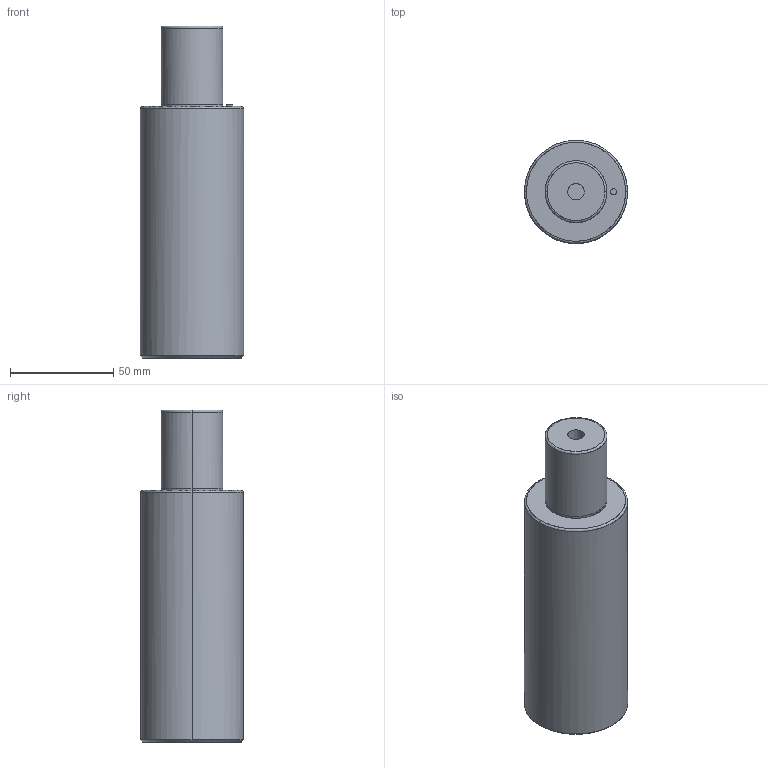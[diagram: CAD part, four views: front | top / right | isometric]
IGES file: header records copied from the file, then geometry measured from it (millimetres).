
Global section: file name: E:\UnigraphicsGraphicData\MISUMI_PRESS-PARTS\IGES\3d_gssr50-38_03955_r00.igs; native system: NX V5.0; preprocessor: UGS NX IGES V5.0; author: MISUMI; date: 20110105.160820; units: millimetre
Bounding box: 50 x 49.89 x 161 mm (x, y, z)
Surface area: 28681.9 mm2 (no closed solid volume)
Topology: 0 solids, 0 shells, 42 faces, 304 edges, 298 vertices
Faces by surface type: bspline 42
